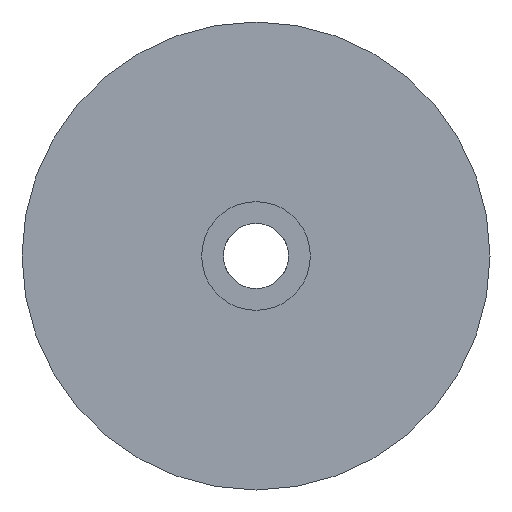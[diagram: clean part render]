
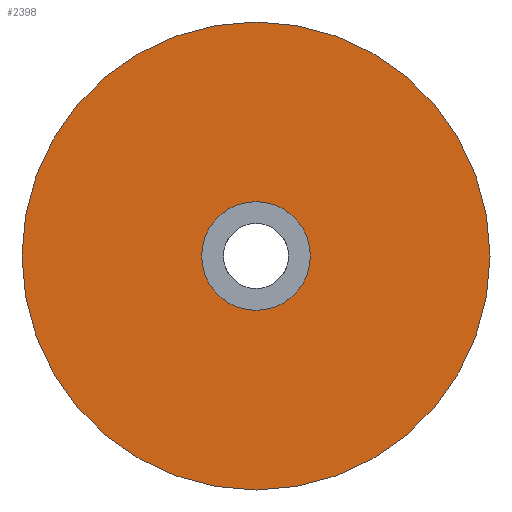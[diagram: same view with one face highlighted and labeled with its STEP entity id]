
A CAD part, front view. The second image highlights one B-rep face of the part: STEP entity #2398.
In plain terms, the highlighted planar face has unit normal (0, -1, 0).
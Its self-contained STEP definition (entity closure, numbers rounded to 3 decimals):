
#767 = CYLINDRICAL_SURFACE('',#768,19.8);
#768 = AXIS2_PLACEMENT_3D('',#769,#770,#771);
#769 = CARTESIAN_POINT('',(0.,-61.5,0.));
#770 = DIRECTION('',(0.,-1.,-0.));
#771 = DIRECTION('',(1.,0.,0.));
#1839 = VERTEX_POINT('',#1840);
#1840 = CARTESIAN_POINT('',(19.8,-61.5,0.));
#1863 = EDGE_CURVE('',#1839,#1839,#1864,.T.);
#1864 = SURFACE_CURVE('',#1865,(#1870,#1877),.PCURVE_S1.);
#1865 = CIRCLE('',#1866,19.8);
#1866 = AXIS2_PLACEMENT_3D('',#1867,#1868,#1869);
#1867 = CARTESIAN_POINT('',(0.,-61.5,0.));
#1868 = DIRECTION('',(-0.,1.,0.));
#1869 = DIRECTION('',(1.,0.,0.));
#1870 = PCURVE('',#767,#1871);
#1871 = DEFINITIONAL_REPRESENTATION('',(#1872),#1876);
#1872 = LINE('',#1873,#1874);
#1873 = CARTESIAN_POINT('',(-0.,0.));
#1874 = VECTOR('',#1875,1.);
#1875 = DIRECTION('',(-1.,0.));
#1876 = ( GEOMETRIC_REPRESENTATION_CONTEXT(2) 
PARAMETRIC_REPRESENTATION_CONTEXT() REPRESENTATION_CONTEXT('2D SPACE',''
  ) );
#1877 = PCURVE('',#1878,#1883);
#1878 = PLANE('',#1879);
#1879 = AXIS2_PLACEMENT_3D('',#1880,#1881,#1882);
#1880 = CARTESIAN_POINT('',(0.,-61.5,0.
    ));
#1881 = DIRECTION('',(0.,1.,0.));
#1882 = DIRECTION('',(0.,-0.,1.));
#1883 = DEFINITIONAL_REPRESENTATION('',(#1884),#1888);
#1884 = CIRCLE('',#1885,19.8);
#1885 = AXIS2_PLACEMENT_2D('',#1886,#1887);
#1886 = CARTESIAN_POINT('',(0.,0.));
#1887 = DIRECTION('',(0.,1.));
#1888 = ( GEOMETRIC_REPRESENTATION_CONTEXT(2) 
PARAMETRIC_REPRESENTATION_CONTEXT() REPRESENTATION_CONTEXT('2D SPACE',''
  ) );
#2194 = CYLINDRICAL_SURFACE('',#2195,4.6);
#2195 = AXIS2_PLACEMENT_3D('',#2196,#2197,#2198);
#2196 = CARTESIAN_POINT('',(0.,-62.5,0.));
#2197 = DIRECTION('',(0.,-1.,-0.));
#2198 = DIRECTION('',(1.,0.,0.));
#2398 = ADVANCED_FACE('',(#2399,#2402),#1878,.F.);
#2399 = FACE_BOUND('',#2400,.F.);
#2400 = EDGE_LOOP('',(#2401));
#2401 = ORIENTED_EDGE('',*,*,#1863,.T.);
#2402 = FACE_BOUND('',#2403,.F.);
#2403 = EDGE_LOOP('',(#2404));
#2404 = ORIENTED_EDGE('',*,*,#2405,.T.);
#2405 = EDGE_CURVE('',#2406,#2406,#2408,.T.);
#2406 = VERTEX_POINT('',#2407);
#2407 = CARTESIAN_POINT('',(4.6,-61.5,0.));
#2408 = SURFACE_CURVE('',#2409,(#2414,#2425),.PCURVE_S1.);
#2409 = CIRCLE('',#2410,4.6);
#2410 = AXIS2_PLACEMENT_3D('',#2411,#2412,#2413);
#2411 = CARTESIAN_POINT('',(0.,-61.5,0.));
#2412 = DIRECTION('',(0.,-1.,-0.));
#2413 = DIRECTION('',(1.,0.,0.));
#2414 = PCURVE('',#1878,#2415);
#2415 = DEFINITIONAL_REPRESENTATION('',(#2416),#2424);
#2416 = ( BOUNDED_CURVE() B_SPLINE_CURVE(2,(#2417,#2418,#2419,#2420,
#2421,#2422,#2423),.UNSPECIFIED.,.T.,.F.) B_SPLINE_CURVE_WITH_KNOTS((1,2
    ,2,2,2,1),(-2.094,0.,2.094,4.189,
6.283,8.378),.UNSPECIFIED.) CURVE() 
GEOMETRIC_REPRESENTATION_ITEM() RATIONAL_B_SPLINE_CURVE((1.,0.5,1.,0.5,
1.,0.5,1.)) REPRESENTATION_ITEM('') );
#2417 = CARTESIAN_POINT('',(0.,4.6));
#2418 = CARTESIAN_POINT('',(7.967,4.6));
#2419 = CARTESIAN_POINT('',(3.984,-2.3));
#2420 = CARTESIAN_POINT('',(0.,-9.2));
#2421 = CARTESIAN_POINT('',(-3.984,-2.3));
#2422 = CARTESIAN_POINT('',(-7.967,4.6));
#2423 = CARTESIAN_POINT('',(0.,4.6));
#2424 = ( GEOMETRIC_REPRESENTATION_CONTEXT(2) 
PARAMETRIC_REPRESENTATION_CONTEXT() REPRESENTATION_CONTEXT('2D SPACE',''
  ) );
#2425 = PCURVE('',#2194,#2426);
#2426 = DEFINITIONAL_REPRESENTATION('',(#2427),#2431);
#2427 = LINE('',#2428,#2429);
#2428 = CARTESIAN_POINT('',(-6.283,-1.));
#2429 = VECTOR('',#2430,1.);
#2430 = DIRECTION('',(1.,-0.));
#2431 = ( GEOMETRIC_REPRESENTATION_CONTEXT(2) 
PARAMETRIC_REPRESENTATION_CONTEXT() REPRESENTATION_CONTEXT('2D SPACE',''
  ) );
